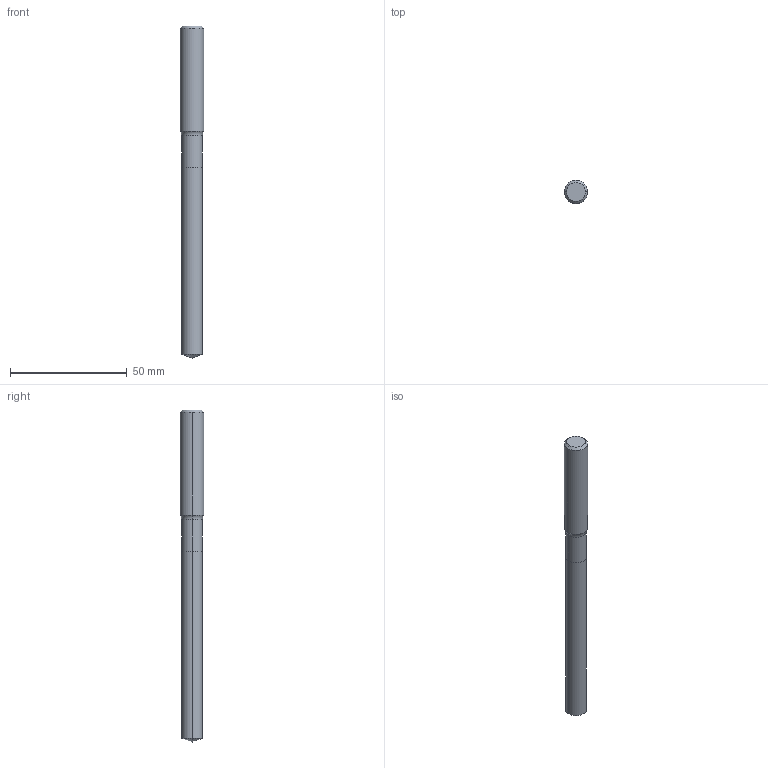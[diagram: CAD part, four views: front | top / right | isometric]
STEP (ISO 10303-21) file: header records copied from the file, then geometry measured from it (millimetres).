
FILE_DESCRIPTION (( 'STEP AP214' ), '1' );
FILE_NAME ('754.089.00_3D-model.step', '2023-08-22T07:05:15', ( '' ), ( '' ), 'SwSTEP 2.0', 'SolidWorks 2020', '' );
FILE_SCHEMA (( 'AUTOMOTIVE_DESIGN' ));
Length unit declared in the file: millimetre
Products named in the file (3): CUT-3D^Baugr1; 754.089.00_3D-model; NOCUT-3D^Baugr1
Assembly tree (2 placements, depth 2):
  754.089.00_3D-model
    CUT-3D^Baugr1
    NOCUT-3D^Baugr1
Bounding box: 10 x 10 x 142 mm (x, y, z)
Volume: 9497 mm3; surface area: 4335.2 mm2
Topology: 2 solids, 2 shells, 17 faces, 32 edges, 17 vertices
Faces by surface type: cone 6, cylinder 6, plane 3, torus 2
Entity records: 532 total; most frequent: DIRECTION 98, CARTESIAN_POINT 72, ORIENTED_EDGE 60, AXIS2_PLACEMENT_3D 43, EDGE_CURVE 30, CIRCLE 18, ADVANCED_FACE 17, VERTEX_POINT 17
